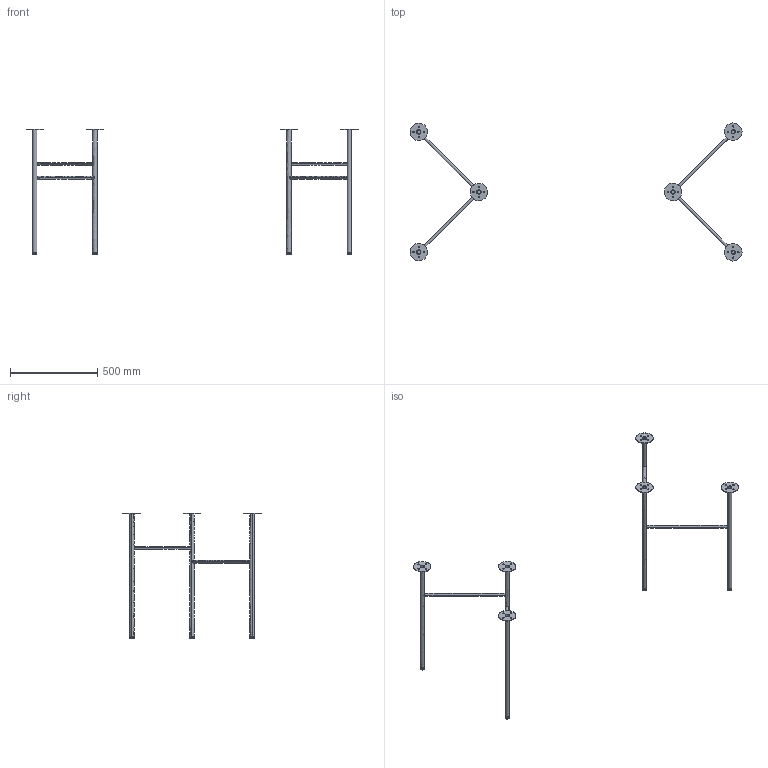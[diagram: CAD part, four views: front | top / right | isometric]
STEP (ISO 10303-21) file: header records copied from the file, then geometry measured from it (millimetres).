
FILE_DESCRIPTION(/* description */ (''),/* implementation_level */ '2;1');
FILE_NAME(/* name */ 'MISJ5R~G',/* time_stamp */ '2019-03-20T11:34:07+01:00',/* author */ (''),/* organization */ (''),/* preprocessor_version */ 'ST-DEVELOPER v16.5',/* originating_system */ '',/* authorisation */ '');
FILE_SCHEMA (('AUTOMOTIVE_DESIGN'));
Length unit declared in the file: millimetre
Products named in the file (1): Document
Bounding box: 1898.37 x 789.22 x 716.5 mm (x, y, z)
Volume: 1171280 mm3; surface area: 813105.9 mm2
Topology: 8 solids, 8 shells, 176 faces, 392 edges, 264 vertices
Faces by surface type: bspline 128, plane 48
Entity records: 6335 total; most frequent: CARTESIAN_POINT 3917, ORIENTED_EDGE 780, EDGE_CURVE 390, EDGE_LOOP 268, VERTEX_POINT 262, ADVANCED_FACE 176, FACE_OUTER_BOUND 176, FACE_BOUND 92
